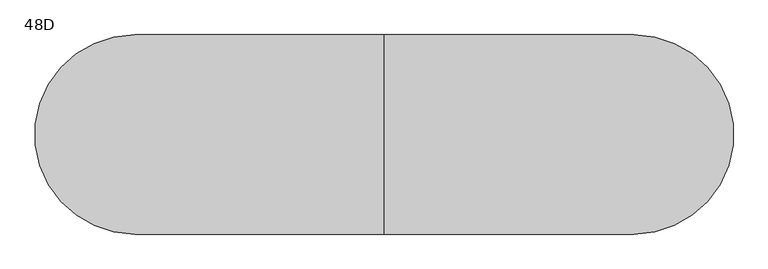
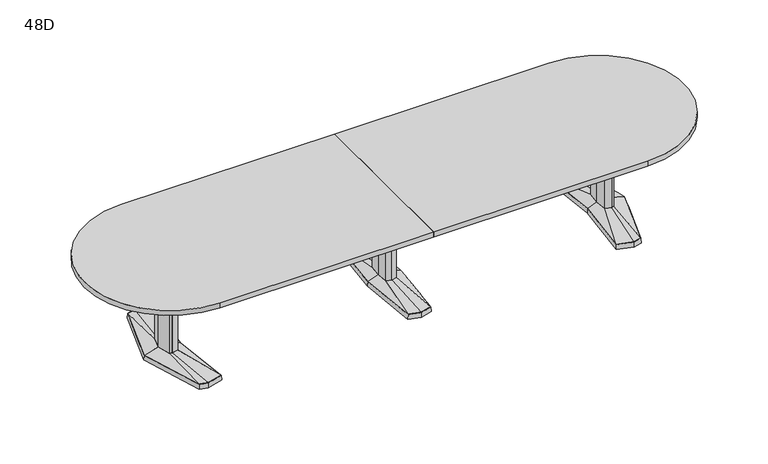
"""IFC4 building model written with IfcOpenShell, lengths in millimetres: furniture geometry, Coalesse_AM_Table_Conference_ETable2_Racetrack_14ft_AluminiumBase : 48D."""

from ifc_helpers import new_model, si_unit, point, frame, frame_2d, origin, place, context, project, spatial, polyline, circle_curve, trimmed, segment, composite_curve, outline, extrude, faceted_brep, source, transform, mapped, element, save
from ifc_brep_helpers import plane_surface, spline_surface, advanced_brep


def furniture_48d_a63c1d98(model_context):
    return source(origin(), model_context, "Body", "SolidModel", [
        faceted_brep([(-81.2333791, -433.8053819, 38.1), (0.0, -455.556576, 38.1), (81.2333791, -433.8053819, 38.1), (119.0564774, 0.0, 38.1), (81.2333791, 433.8053819, 38.1), (0.0, 455.556576, 38.1), (-81.2333791, 433.8053819, 38.1), (-119.0564774, 0.0, 38.1), (-82.7182795, -435.0512063, 3.175), (-120.65, 0.0, 3.175), (-82.7182795, 435.0512063, 3.175), (0.0, 457.2, 3.175), (82.7182795, 435.0512063, 3.175), (120.65, 0.0, 3.175), (82.7182795, -435.0512063, 3.175), (0.0, -457.2, 3.175), (0.0, 429.2617927, 3.175), (-77.9676806, 408.3850278, 3.175), (-74.7019821, 382.9646737, 3.175), (0.0, 402.9670094, 3.175), (74.7019821, 382.9646737, 3.175), (77.9676806, 408.3850278, 3.175), (0.0, -429.2617927, 3.175), (77.9676806, -408.3850278, 3.175), (74.7019821, -382.9646737, 3.175), (0.0, -402.9670094, 3.175), (-74.7019821, -382.9646737, 3.175), (-77.9676806, -408.3850278, 3.175), (-71.8574262, 114.6326257, 3.175), (-82.5426076, 0.0, 3.175), (-71.8574262, -114.6326257, 3.175), (0.0, -133.8761372, 3.175), (71.8574262, -114.6326257, 3.175), (82.5426076, 0.0, 3.175), (71.8574262, 114.6326257, 3.175), (0.0, 133.8761372, 3.175), (0.0, 429.2617927, 0.0), (77.9676806, 408.3850278, 0.0), (74.7019821, 382.9646737, 0.0), (0.0, 402.9670094, 0.0), (-74.7019821, 382.9646737, 0.0), (-77.9676806, 408.3850278, 0.0), (0.0, -429.2617927, 0.0), (-77.9676806, -408.3850278, 0.0), (-74.7019821, -382.9646737, 0.0), (0.0, -402.9670094, 0.0), (74.7019821, -382.9646737, 0.0), (77.9676806, -408.3850278, 0.0), (-71.8574262, 114.6326257, 0.0), (0.0, 133.8761372, 0.0), (71.8574262, 114.6326257, 0.0), (82.5426076, 0.0, 0.0), (71.8574262, -114.6326257, 0.0), (0.0, -133.8761372, 0.0), (-71.8574262, -114.6326257, 0.0), (-82.5426076, 0.0, 0.0)], [[[0, 1, 2, 3, 4, 5, 6, 7]], [[8, 9, 10, 11, 12, 13, 14, 15], [16, 17, 18, 19, 20, 21], [22, 23, 24, 25, 26, 27], [28, 29, 30, 31, 32, 33, 34, 35]], [[1, 0, 8, 15]], [[2, 1, 15, 14]], [[3, 2, 14, 13]], [[4, 3, 13, 12]], [[5, 4, 12, 11]], [[6, 5, 11, 10]], [[7, 6, 10, 9]], [[0, 7, 9, 8]], [[36, 37, 38, 39, 40, 41]], [[42, 43, 44, 45, 46, 47]], [[48, 49, 50, 51, 52, 53, 54, 55]], [[36, 41, 17, 16]], [[41, 40, 18, 17]], [[40, 39, 19, 18]], [[39, 38, 20, 19]], [[38, 37, 21, 20]], [[37, 36, 16, 21]], [[42, 47, 23, 22]], [[47, 46, 24, 23]], [[46, 45, 25, 24]], [[45, 44, 26, 25]], [[44, 43, 27, 26]], [[43, 42, 22, 27]], [[48, 55, 29, 28]], [[55, 54, 30, 29]], [[54, 53, 31, 30]], [[53, 52, 32, 31]], [[52, 51, 33, 32]], [[51, 50, 34, 33]], [[50, 49, 35, 34]], [[49, 48, 28, 35]]]),
        faceted_brep([(-36.3832834, 84.6900825, 698.5), (-44.2774487, 0.0, 698.5), (-36.3832834, -84.6900825, 698.5), (0.0, -94.4335728, 698.5), (36.3832834, -84.6900825, 698.5), (44.2774487, 0.0, 698.5), (36.3832834, 84.6900825, 698.5), (0.0, 94.4335728, 698.5), (-36.3832834, 84.6900825, 63.5), (0.0, 94.4335728, 63.5), (36.3832834, 84.6900825, 63.5), (44.2774487, 0.0, 63.5), (36.3832834, -84.6900825, 63.5), (0.0, -94.4335728, 63.5), (-36.3832834, -84.6900825, 63.5), (-44.2774487, 0.0, 63.5)], [[[0, 1, 2, 3, 4, 5, 6, 7]], [[8, 9, 10, 11, 12, 13, 14, 15]], [[1, 0, 8, 15]], [[2, 1, 15, 14]], [[3, 2, 14, 13]], [[4, 3, 13, 12]], [[5, 4, 12, 11]], [[6, 5, 11, 10]], [[7, 6, 10, 9]], [[0, 7, 9, 8]]]),
        advanced_brep(
        [(-36.3832834, 84.6900825, 63.5), (-44.2774487, 0.0, 63.5), (-36.3832834, -84.6900825, 63.5), (0.0, -94.4335728, 63.5), (36.3832834, -84.6900825, 63.5), (44.2774487, 0.0, 63.5), (36.3832834, 84.6900825, 63.5), (0.0, 94.4335728, 63.5), (-81.2333791, 433.8053819, 38.1), (0.0, 455.556576, 38.1), (81.2333791, 433.8053819, 38.1), (119.0564774, 0.0, 38.1), (81.2333791, -433.8053819, 38.1), (0.0, -455.556576, 38.1), (-81.2333791, -433.8053819, 38.1), (-119.0564774, 0.0, 38.1)],
        [
            (0, 1),
            (1, 2),
            (2, 3),
            (3, 4),
            (4, 5),
            (5, 6),
            (6, 7),
            (7, 0),
            (8, 9),
            (9, 10),
            (10, 11),
            (11, 12),
            (12, 13),
            (13, 14),
            (14, 15),
            (15, 8),
            (15, 1),
            (0, 8),
            (14, 2),
            (13, 3),
            (12, 4),
            (11, 5),
            (10, 6),
            (9, 7),
        ],
        [
            plane_surface(frame((0.0, 0.0, 63.5), z_axis=(0.0, 0.0, 1.0000000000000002), x_axis=(-0.9659615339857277, -0.25868574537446, 0.0))),
            plane_surface(frame((0.0, 0.0, 38.1), z_axis=(0.0, 0.0, -1.0000000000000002), x_axis=(-0.9659615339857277, -0.25868574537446, 0.0))),
            spline_surface(1, 1, [[(-81.2333791, 433.8053819, 38.1), (-36.3832834, 84.6900825, 63.5)], [(-119.0564774, 0.0, 38.1), (-44.2774487, 0.0, 63.5)]], [2, 2], [2, 2], [0.0, 1.0], [0.0, 1.0]),
            spline_surface(1, 1, [[(-119.0564774, 0.0, 38.1), (-44.2774487, 0.0, 63.5)], [(-81.2333791, -433.8053819, 38.1), (-36.3832834, -84.6900825, 63.5)]], [2, 2], [2, 2], [0.0, 1.0], [0.0, 1.0]),
            spline_surface(1, 1, [[(-81.2333791, -433.8053819, 38.1), (-36.3832834, -84.6900825, 63.5)], [(0.0, -455.556576, 38.1), (0.0, -94.4335728, 63.5)]], [2, 2], [2, 2], [0.0, 1.0], [0.0, 1.0]),
            spline_surface(1, 1, [[(0.0, -455.556576, 38.1), (0.0, -94.4335728, 63.5)], [(81.2333791, -433.8053819, 38.1), (36.3832834, -84.6900825, 63.5)]], [2, 2], [2, 2], [0.0, 1.0], [0.0, 1.0]),
            spline_surface(1, 1, [[(81.2333791, -433.8053819, 38.1), (36.3832834, -84.6900825, 63.5)], [(119.0564774, 0.0, 38.1), (44.2774487, 0.0, 63.5)]], [2, 2], [2, 2], [0.0, 1.0], [0.0, 1.0]),
            spline_surface(1, 1, [[(119.0564774, 0.0, 38.1), (44.2774487, 0.0, 63.5)], [(81.2333791, 433.8053819, 38.1), (36.3832834, 84.6900825, 63.5)]], [2, 2], [2, 2], [0.0, 1.0], [0.0, 1.0]),
            spline_surface(1, 1, [[(81.2333791, 433.8053819, 38.1), (36.3832834, 84.6900825, 63.5)], [(0.0, 455.556576, 38.1), (0.0, 94.4335728, 63.5)]], [2, 2], [2, 2], [0.0, 1.0], [0.0, 1.0]),
            spline_surface(1, 1, [[(0.0, 455.556576, 38.1), (0.0, 94.4335728, 63.5)], [(-81.2333791, 433.8053819, 38.1), (-36.3832834, 84.6900825, 63.5)]], [2, 2], [2, 2], [0.0, 1.0], [0.0, 1.0]),
        ],
        [
            (0, [[1, 2, 3, 4, 5, 6, 7, 8]]),
            (1, [[9, 10, 11, 12, 13, 14, 15, 16]]),
            (2, [[-16, 17, -1, 18]]),
            (3, [[-15, 19, -2, -17]]),
            (4, [[-14, 20, -3, -19]]),
            (5, [[-13, 21, -4, -20]]),
            (6, [[-12, 22, -5, -21]]),
            (7, [[-11, 23, -6, -22]]),
            (8, [[-10, 24, -7, -23]]),
            (9, [[-9, -18, -8, -24]]),
        ],
    ),
        faceted_brep([(1515.4306835, 455.5848221, 38.1), (1405.8531277, 426.2263816, 38.1), (1447.0163717, 0.0, 38.1), (1405.8531277, -426.2263816, 38.1), (1515.4306835, -455.5848221, 38.1), (1571.5570396, -440.5478297, 38.1), (1708.8684269, 0.0, 38.1), (1571.5570396, 440.5478297, 38.1), (1515.4306754, 457.2283104, 3.175), (1572.8124472, 441.8549756, 3.175), (1710.53125, 0.0, 3.175), (1572.8124472, -441.8549756, 3.175), (1515.4306754, -457.2283104, 3.175), (1404.14375, -427.4118891, 3.175), (1445.4214856, 0.0, 3.175), (1404.14375, 427.4118891, 3.175), (1519.020115, 428.3273875, 3.175), (1413.9718228, 402.1057253, 3.175), (1422.090518, 377.985069, 3.175), (1522.6095466, 401.0699529, 3.175), (1573.1691725, 387.524361, 3.175), (1572.3631061, 414.0360954, 3.175), (1519.020115, -428.3273875, 3.175), (1572.3631061, -414.0360954, 3.175), (1573.1691725, -387.524361, 3.175), (1522.6095466, -401.0699529, 3.175), (1422.090518, -377.985069, 3.175), (1413.9718228, -402.1057253, 3.175), (1645.6153621, 0.0, 3.175), (1613.3459611, 120.4193755, 3.175), (1564.6987222, 133.471665, 3.175), (1484.8180526, 119.4176561, 3.175), (1473.6868466, 0.0, 3.175), (1484.8180526, -119.4176561, 3.175), (1564.6987222, -133.471665, 3.175), (1613.3459611, -120.4193755, 3.175), (1519.020115, 428.3273875, 0.0), (1572.3631061, 414.0360954, 0.0), (1573.1691725, 387.524361, 0.0), (1522.6095466, 401.0699529, 0.0), (1422.090518, 377.985069, 0.0), (1413.9718228, 402.1057253, 0.0), (1519.020115, -428.3273875, 0.0), (1413.9718228, -402.1057253, 0.0), (1422.090518, -377.985069, 0.0), (1522.6095466, -401.0699529, 0.0), (1573.1691725, -387.524361, 0.0), (1572.3631061, -414.0360954, 0.0), (1645.6153621, 0.0, 0.0), (1613.3459611, -120.4193755, 0.0), (1564.6987222, -133.471665, 0.0), (1484.8180526, -119.4176561, 0.0), (1473.6868466, 0.0, 0.0), (1484.8180526, 119.4176561, 0.0), (1564.6987222, 133.471665, 0.0), (1613.3459611, 120.4193755, 0.0)], [[[0, 1, 2, 3, 4, 5, 6, 7]], [[8, 9, 10, 11, 12, 13, 14, 15], [16, 17, 18, 19, 20, 21], [22, 23, 24, 25, 26, 27], [28, 29, 30, 31, 32, 33, 34, 35]], [[7, 9, 8, 0]], [[6, 10, 9, 7]], [[5, 11, 10, 6]], [[4, 12, 11, 5]], [[3, 13, 12, 4]], [[2, 14, 13, 3]], [[1, 15, 14, 2]], [[0, 8, 15, 1]], [[36, 37, 38, 39, 40, 41]], [[42, 43, 44, 45, 46, 47]], [[48, 49, 50, 51, 52, 53, 54, 55]], [[36, 16, 21, 37]], [[37, 21, 20, 38]], [[38, 20, 19, 39]], [[39, 19, 18, 40]], [[40, 18, 17, 41]], [[41, 17, 16, 36]], [[42, 22, 27, 43]], [[43, 27, 26, 44]], [[44, 26, 25, 45]], [[45, 25, 24, 46]], [[46, 24, 23, 47]], [[47, 23, 22, 42]], [[48, 28, 35, 49]], [[49, 35, 34, 50]], [[50, 34, 33, 51]], [[51, 33, 32, 52]], [[52, 32, 31, 53]], [[53, 31, 30, 54]], [[54, 30, 29, 55]], [[55, 29, 28, 48]]]),
        faceted_brep([(1606.1710836, 0.0, 698.5), (1582.2358546, 89.3188359, 698.5), (1565.3824984, 93.8406728, 698.5), (1562.9826511, 94.4845635, 698.5), (1520.055146, 86.9320037, 698.5), (1511.9520056, 0.0, 698.5), (1520.055146, -86.9320037, 698.5), (1562.9826511, -94.4845635, 698.5), (1565.3824984, -93.8406728, 698.5), (1582.2358546, -89.3188359, 698.5), (1606.1710836, 0.0, 63.5), (1582.2358546, -89.3188359, 63.5), (1565.3824984, -93.8406728, 63.5), (1562.9826511, -94.4845635, 63.5), (1520.055146, -86.9320037, 63.5), (1511.9520056, 0.0, 63.5), (1520.055146, 86.9320037, 63.5), (1562.9826511, 94.4845635, 63.5), (1565.3824984, 93.8406728, 63.5), (1582.2358546, 89.3188359, 63.5)], [[[0, 1, 2, 3, 4, 5, 6, 7, 8, 9]], [[10, 11, 12, 13, 14, 15, 16, 17, 18, 19]], [[9, 11, 10, 0]], [[8, 12, 11, 9]], [[7, 13, 12, 8]], [[6, 14, 13, 7]], [[5, 15, 14, 6]], [[4, 16, 15, 5]], [[3, 17, 16, 4]], [[2, 18, 17, 3]], [[1, 19, 18, 2]], [[0, 10, 19, 1]]]),
        advanced_brep(
        [(1562.9826511, 94.4845635, 63.5), (1520.055146, 86.9320037, 63.5), (1511.9520056, 0.0, 63.5), (1520.055146, -86.9320037, 63.5), (1562.9826511, -94.4845635, 63.5), (1582.2358546, -89.3188359, 63.5), (1606.1710836, 0.0, 63.5), (1582.2358546, 89.3188359, 63.5), (1515.4306835, 455.5848221, 38.1), (1571.5570396, 440.5478297, 38.1), (1708.8684269, 0.0, 38.1), (1571.5570396, -440.5478297, 38.1), (1515.4306835, -455.5848221, 38.1), (1405.8531277, -426.2263816, 38.1), (1447.0163717, 0.0, 38.1), (1405.8531277, 426.2263816, 38.1)],
        [
            (0, 1),
            (1, 2),
            (2, 3),
            (3, 4),
            (4, 5),
            (5, 6),
            (6, 7),
            (7, 0),
            (8, 9),
            (9, 10),
            (10, 11),
            (11, 12),
            (12, 13),
            (13, 14),
            (14, 15),
            (15, 8),
            (8, 0),
            (7, 9),
            (6, 10),
            (5, 11),
            (4, 12),
            (3, 13),
            (2, 14),
            (1, 15),
        ],
        [
            plane_surface(frame((1556.0837991, 0.0, 63.5), z_axis=(0.0, 0.0, 1.0), x_axis=(-0.25884244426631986, -0.9659195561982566, 0.0))),
            plane_surface(frame((1517.6958125, 0.0, 38.1), z_axis=(0.0, 0.0, -1.0), x_axis=(-0.25884244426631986, -0.9659195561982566, 0.0))),
            spline_surface(1, 1, [[(1515.4306835, 455.5848221, 38.1), (1571.5570396, 440.5478297, 38.1)], [(1562.9826511, 94.4845635, 63.5), (1582.2358546, 89.3188359, 63.5)]], [2, 2], [2, 2], [0.0, 1.0], [0.0, 1.0]),
            spline_surface(1, 1, [[(1571.5570396, 440.5478297, 38.1), (1708.8684269, 0.0, 38.1)], [(1582.2358546, 89.3188359, 63.5), (1606.1710836, 0.0, 63.5)]], [2, 2], [2, 2], [0.0, 1.0], [0.0, 1.0]),
            spline_surface(1, 1, [[(1708.8684269, 0.0, 38.1), (1571.5570396, -440.5478297, 38.1)], [(1606.1710836, 0.0, 63.5), (1582.2358546, -89.3188359, 63.5)]], [2, 2], [2, 2], [0.0, 1.0], [0.0, 1.0]),
            spline_surface(1, 1, [[(1571.5570396, -440.5478297, 38.1), (1515.4306835, -455.5848221, 38.1)], [(1582.2358546, -89.3188359, 63.5), (1562.9826511, -94.4845635, 63.5)]], [2, 2], [2, 2], [0.0, 1.0], [0.0, 1.0]),
            spline_surface(1, 1, [[(1515.4306835, -455.5848221, 38.1), (1405.8531277, -426.2263816, 38.1)], [(1562.9826511, -94.4845635, 63.5), (1520.055146, -86.9320037, 63.5)]], [2, 2], [2, 2], [0.0, 1.0], [0.0, 1.0]),
            spline_surface(1, 1, [[(1405.8531277, -426.2263816, 38.1), (1447.0163717, 0.0, 38.1)], [(1520.055146, -86.9320037, 63.5), (1511.9520056, 0.0, 63.5)]], [2, 2], [2, 2], [0.0, 1.0], [0.0, 1.0]),
            spline_surface(1, 1, [[(1447.0163717, 0.0, 38.1), (1405.8531277, 426.2263816, 38.1)], [(1511.9520056, 0.0, 63.5), (1520.055146, 86.9320037, 63.5)]], [2, 2], [2, 2], [0.0, 1.0], [0.0, 1.0]),
            spline_surface(1, 1, [[(1405.8531277, 426.2263816, 38.1), (1515.4306835, 455.5848221, 38.1)], [(1520.055146, 86.9320037, 63.5), (1562.9826511, 94.4845635, 63.5)]], [2, 2], [2, 2], [0.0, 1.0], [0.0, 1.0]),
        ],
        [
            (0, [[1, 2, 3, 4, 5, 6, 7, 8]]),
            (1, [[9, 10, 11, 12, 13, 14, 15, 16]]),
            (2, [[17, -8, 18, -9]]),
            (3, [[-18, -7, 19, -10]]),
            (4, [[-19, -6, 20, -11]]),
            (5, [[-20, -5, 21, -12]]),
            (6, [[-21, -4, 22, -13]]),
            (7, [[-22, -3, 23, -14]]),
            (8, [[-23, -2, 24, -15]]),
            (9, [[-24, -1, -17, -16]]),
        ],
    ),
        faceted_brep([(-1515.4306835, 455.5848221, 38.1), (-1571.5570396, 440.5478297, 38.1), (-1708.8684269, 0.0, 38.1), (-1571.5570396, -440.5478297, 38.1), (-1515.4306835, -455.5848221, 38.1), (-1405.8531277, -426.2263816, 38.1), (-1447.0163717, 0.0, 38.1), (-1405.8531277, 426.2263816, 38.1), (-1515.4306754, 457.2283104, 3.175), (-1404.14375, 427.4118891, 3.175), (-1445.4214856, 0.0, 3.175), (-1404.14375, -427.4118891, 3.175), (-1515.4306754, -457.2283104, 3.175), (-1572.8124472, -441.8549756, 3.175), (-1710.53125, 0.0, 3.175), (-1572.8124472, 441.8549756, 3.175), (-1519.020115, 428.3273875, 3.175), (-1572.3631061, 414.0360954, 3.175), (-1573.1691725, 387.524361, 3.175), (-1522.6095466, 401.0699529, 3.175), (-1422.090518, 377.985069, 3.175), (-1413.9718228, 402.1057253, 3.175), (-1519.020115, -428.3273875, 3.175), (-1413.9718228, -402.1057253, 3.175), (-1422.090518, -377.985069, 3.175), (-1522.6095466, -401.0699529, 3.175), (-1573.1691725, -387.524361, 3.175), (-1572.3631061, -414.0360954, 3.175), (-1645.6153621, 0.0, 3.175), (-1613.3459611, -120.4193755, 3.175), (-1564.6987222, -133.471665, 3.175), (-1484.8180526, -119.4176561, 3.175), (-1473.6868466, 0.0, 3.175), (-1484.8180526, 119.4176561, 3.175), (-1564.6987222, 133.471665, 3.175), (-1613.3459611, 120.4193755, 3.175), (-1519.020115, 428.3273875, 0.0), (-1413.9718228, 402.1057253, 0.0), (-1422.090518, 377.985069, 0.0), (-1522.6095466, 401.0699529, 0.0), (-1573.1691725, 387.524361, 0.0), (-1572.3631061, 414.0360954, 0.0), (-1519.020115, -428.3273875, 0.0), (-1572.3631061, -414.0360954, 0.0), (-1573.1691725, -387.524361, 0.0), (-1522.6095466, -401.0699529, 0.0), (-1422.090518, -377.985069, 0.0), (-1413.9718228, -402.1057253, 0.0), (-1645.6153621, 0.0, 0.0), (-1613.3459611, 120.4193755, 0.0), (-1564.6987222, 133.471665, 0.0), (-1484.8180526, 119.4176561, 0.0), (-1473.6868466, 0.0, 0.0), (-1484.8180526, -119.4176561, 0.0), (-1564.6987222, -133.471665, 0.0), (-1613.3459611, -120.4193755, 0.0)], [[[0, 1, 2, 3, 4, 5, 6, 7]], [[8, 9, 10, 11, 12, 13, 14, 15], [16, 17, 18, 19, 20, 21], [22, 23, 24, 25, 26, 27], [28, 29, 30, 31, 32, 33, 34, 35]], [[1, 0, 8, 15]], [[2, 1, 15, 14]], [[3, 2, 14, 13]], [[4, 3, 13, 12]], [[5, 4, 12, 11]], [[6, 5, 11, 10]], [[7, 6, 10, 9]], [[0, 7, 9, 8]], [[36, 37, 38, 39, 40, 41]], [[42, 43, 44, 45, 46, 47]], [[48, 49, 50, 51, 52, 53, 54, 55]], [[36, 41, 17, 16]], [[41, 40, 18, 17]], [[40, 39, 19, 18]], [[39, 38, 20, 19]], [[38, 37, 21, 20]], [[37, 36, 16, 21]], [[42, 47, 23, 22]], [[47, 46, 24, 23]], [[46, 45, 25, 24]], [[45, 44, 26, 25]], [[44, 43, 27, 26]], [[43, 42, 22, 27]], [[48, 55, 29, 28]], [[55, 54, 30, 29]], [[54, 53, 31, 30]], [[53, 52, 32, 31]], [[52, 51, 33, 32]], [[51, 50, 34, 33]], [[50, 49, 35, 34]], [[49, 48, 28, 35]]]),
        faceted_brep([(-1606.1710836, 0.0, 698.5), (-1582.2358546, -89.3188359, 698.5), (-1565.3824984, -93.8406728, 698.5), (-1562.9826511, -94.4845635, 698.5), (-1520.055146, -86.9320037, 698.5), (-1511.9520056, 0.0, 698.5), (-1520.055146, 86.9320037, 698.5), (-1562.9826511, 94.4845635, 698.5), (-1565.3824984, 93.8406728, 698.5), (-1582.2358546, 89.3188359, 698.5), (-1606.1710836, 0.0, 63.5), (-1582.2358546, 89.3188359, 63.5), (-1565.3824984, 93.8406728, 63.5), (-1562.9826511, 94.4845635, 63.5), (-1520.055146, 86.9320037, 63.5), (-1511.9520056, 0.0, 63.5), (-1520.055146, -86.9320037, 63.5), (-1562.9826511, -94.4845635, 63.5), (-1565.3824984, -93.8406728, 63.5), (-1582.2358546, -89.3188359, 63.5)], [[[0, 1, 2, 3, 4, 5, 6, 7, 8, 9]], [[10, 11, 12, 13, 14, 15, 16, 17, 18, 19]], [[1, 0, 10, 19]], [[2, 1, 19, 18]], [[3, 2, 18, 17]], [[4, 3, 17, 16]], [[5, 4, 16, 15]], [[6, 5, 15, 14]], [[7, 6, 14, 13]], [[8, 7, 13, 12]], [[9, 8, 12, 11]], [[0, 9, 11, 10]]]),
        advanced_brep(
        [(-1562.9826511, 94.4845635, 63.5), (-1582.2358546, 89.3188359, 63.5), (-1606.1710836, 0.0, 63.5), (-1582.2358546, -89.3188359, 63.5), (-1562.9826511, -94.4845635, 63.5), (-1520.055146, -86.9320037, 63.5), (-1511.9520056, 0.0, 63.5), (-1520.055146, 86.9320037, 63.5), (-1515.4306835, 455.5848221, 38.1), (-1405.8531277, 426.2263816, 38.1), (-1447.0163717, 0.0, 38.1), (-1405.8531277, -426.2263816, 38.1), (-1515.4306835, -455.5848221, 38.1), (-1571.5570396, -440.5478297, 38.1), (-1708.8684269, 0.0, 38.1), (-1571.5570396, 440.5478297, 38.1)],
        [
            (0, 1),
            (1, 2),
            (2, 3),
            (3, 4),
            (4, 5),
            (5, 6),
            (6, 7),
            (7, 0),
            (8, 9),
            (9, 10),
            (10, 11),
            (11, 12),
            (12, 13),
            (13, 14),
            (14, 15),
            (15, 8),
            (15, 1),
            (0, 8),
            (14, 2),
            (13, 3),
            (12, 4),
            (11, 5),
            (10, 6),
            (9, 7),
        ],
        [
            plane_surface(frame((-1556.0837991, 0.0, 63.5), z_axis=(0.0, 0.0, 1.0), x_axis=(0.25884244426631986, -0.9659195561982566, 0.0))),
            plane_surface(frame((-1517.6958125, 0.0, 38.1), z_axis=(0.0, 0.0, -1.0), x_axis=(0.25884244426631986, -0.9659195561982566, 0.0))),
            spline_surface(1, 1, [[(-1515.4306835, 455.5848221, 38.1), (-1562.9826511, 94.4845635, 63.5)], [(-1571.5570396, 440.5478297, 38.1), (-1582.2358546, 89.3188359, 63.5)]], [2, 2], [2, 2], [0.0, 1.0], [0.0, 1.0]),
            spline_surface(1, 1, [[(-1571.5570396, 440.5478297, 38.1), (-1582.2358546, 89.3188359, 63.5)], [(-1708.8684269, 0.0, 38.1), (-1606.1710836, 0.0, 63.5)]], [2, 2], [2, 2], [0.0, 1.0], [0.0, 1.0]),
            spline_surface(1, 1, [[(-1708.8684269, 0.0, 38.1), (-1606.1710836, 0.0, 63.5)], [(-1571.5570396, -440.5478297, 38.1), (-1582.2358546, -89.3188359, 63.5)]], [2, 2], [2, 2], [0.0, 1.0], [0.0, 1.0]),
            spline_surface(1, 1, [[(-1571.5570396, -440.5478297, 38.1), (-1582.2358546, -89.3188359, 63.5)], [(-1515.4306835, -455.5848221, 38.1), (-1562.9826511, -94.4845635, 63.5)]], [2, 2], [2, 2], [0.0, 1.0], [0.0, 1.0]),
            spline_surface(1, 1, [[(-1515.4306835, -455.5848221, 38.1), (-1562.9826511, -94.4845635, 63.5)], [(-1405.8531277, -426.2263816, 38.1), (-1520.055146, -86.9320037, 63.5)]], [2, 2], [2, 2], [0.0, 1.0], [0.0, 1.0]),
            spline_surface(1, 1, [[(-1405.8531277, -426.2263816, 38.1), (-1520.055146, -86.9320037, 63.5)], [(-1447.0163717, 0.0, 38.1), (-1511.9520056, 0.0, 63.5)]], [2, 2], [2, 2], [0.0, 1.0], [0.0, 1.0]),
            spline_surface(1, 1, [[(-1447.0163717, 0.0, 38.1), (-1511.9520056, 0.0, 63.5)], [(-1405.8531277, 426.2263816, 38.1), (-1520.055146, 86.9320037, 63.5)]], [2, 2], [2, 2], [0.0, 1.0], [0.0, 1.0]),
            spline_surface(1, 1, [[(-1405.8531277, 426.2263816, 38.1), (-1520.055146, 86.9320037, 63.5)], [(-1515.4306835, 455.5848221, 38.1), (-1562.9826511, 94.4845635, 63.5)]], [2, 2], [2, 2], [0.0, 1.0], [0.0, 1.0]),
        ],
        [
            (0, [[1, 2, 3, 4, 5, 6, 7, 8]]),
            (1, [[9, 10, 11, 12, 13, 14, 15, 16]]),
            (2, [[-16, 17, -1, 18]]),
            (3, [[-15, 19, -2, -17]]),
            (4, [[-14, 20, -3, -19]]),
            (5, [[-13, 21, -4, -20]]),
            (6, [[-12, 22, -5, -21]]),
            (7, [[-11, 23, -6, -22]]),
            (8, [[-10, 24, -7, -23]]),
            (9, [[-9, -18, -8, -24]]),
        ],
    ),
        extrude(outline(polyline([(96.8375, 698.5), (103.1875, 698.5), (103.1875, 476.25), (-103.1875, 476.25), (-103.1875, 698.5), (-96.8375, 698.5), (-96.8375, 482.6), (96.8375, 482.6), (96.8375, 698.5)])), frame((44.2774487, 0.0, 0.0), z_axis=(1.0, 0.0, 0.0), x_axis=(0.0, 1.0, 0.0)), (0.0, 0.0, 1.0), 1467.8163013),
        extrude(outline(composite_curve([segment(trimmed(circle_curve(frame_2d((1524.0, 0.0)), 609.6), [point((1524.0, 609.6))], [point((1524.0, -609.6))], False, "CARTESIAN"), True, "CONTINUOUS"), segment(polyline([(1524.0, -609.6), (0.0, -609.6), (0.0, 609.6), (1524.0, 609.6)]), True, "CONTINUOUS")], self_intersect=False)), frame((0.0, 0.0, 698.5), z_axis=(0.0, 0.0, 1.0), x_axis=(1.0, 0.0, 0.0)), (0.0, 0.0, 1.0), 38.1),
        extrude(outline(composite_curve([segment(polyline([(0.0, 609.6), (0.0, -609.6), (-1524.0, -609.6)]), True, "CONTINUOUS"), segment(trimmed(circle_curve(frame_2d((-1524.0, 0.0)), 609.6), [point((-1524.0, -609.6))], [point((-1524.0, 609.6))], False, "CARTESIAN"), True, "CONTINUOUS"), segment(polyline([(-1524.0, 609.6), (0.0, 609.6)]), True, "CONTINUOUS")], self_intersect=False)), frame((0.0, 0.0, 698.5), z_axis=(0.0, 0.0, 1.0), x_axis=(1.0, 0.0, 0.0)), (0.0, 0.0, 1.0), 38.1),
        extrude(outline(polyline([(96.8375, 698.5), (103.1875, 698.5), (103.1875, 476.25), (-103.1875, 476.25), (-103.1875, 698.5), (-96.8375, 698.5), (-96.8375, 482.6), (96.8375, 482.6), (96.8375, 698.5)])), frame((-1512.09375, 0.0, 0.0), z_axis=(1.0, 0.0, 0.0), x_axis=(0.0, 1.0, 0.0)), (0.0, 0.0, 1.0), 1467.8163013),
    ])


if __name__ == "__main__":
    model = new_model("IFC4")
    model_context = context("Model", 3, world=origin())
    ifc_project = project(units=[si_unit("LENGTHUNIT", "METRE", prefix="MILLI")], contexts=[model_context])
    site = spatial("IfcSite", under=ifc_project)
    building = spatial("IfcBuilding", under=site)
    placement = place(None, origin())
    furniture_48d_shape = furniture_48d_a63c1d98(model_context)
    element("IfcFurniture", 1, ObjectType="Coalesse_AM_Table_Conference_ETable2_Racetrack_14ft_AluminiumBase : 48D", at=placement, inside=building, context=model_context, shape_type="MappedRepresentation", body=[
        mapped(furniture_48d_shape, transform((0.0, 0.0, 0.0), x_axis=(1.0, 0.0, 0.0), y_axis=(0.0, 1.0, 0.0), z_axis=(0.0, 0.0, 1.0))),
    ])
    save(model, "model.ifc")
